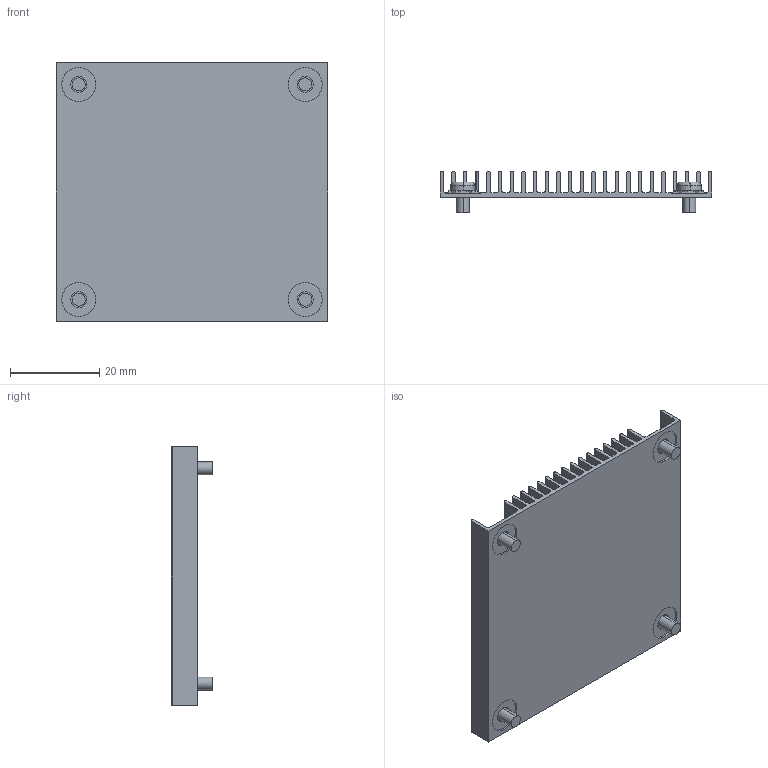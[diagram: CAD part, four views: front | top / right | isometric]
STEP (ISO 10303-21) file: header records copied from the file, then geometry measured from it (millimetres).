
FILE_DESCRIPTION (( 'STEP AP214' ), '1' );
FILE_NAME ('HS1579EBK05.STEP', '2023-03-03T19:00:04', ( '' ), ( '' ), 'SwSTEP 2.0', 'SolidWorks 2020', '' );
FILE_SCHEMA (( 'AUTOMOTIVE_DESIGN' ));
Length unit declared in the file: millimetre
Products named in the file (1): HS1579EBK05
Bounding box: 60.96 x 9.32 x 57.91 mm (x, y, z)
Volume: 8483.8 mm3; surface area: 19653.9 mm2
Topology: 5 solids, 5 shells, 572 faces, 1514 edges, 964 vertices
Faces by surface type: plane 398, cylinder 166, torus 8
Entity records: 24096 total; most frequent: CARTESIAN_POINT 3247, DIRECTION 3048, ORIENTED_EDGE 3028, EDGE_CURVE 1514, LINE 1094, VECTOR 1094, AXIS2_PLACEMENT_3D 977, VERTEX_POINT 964
